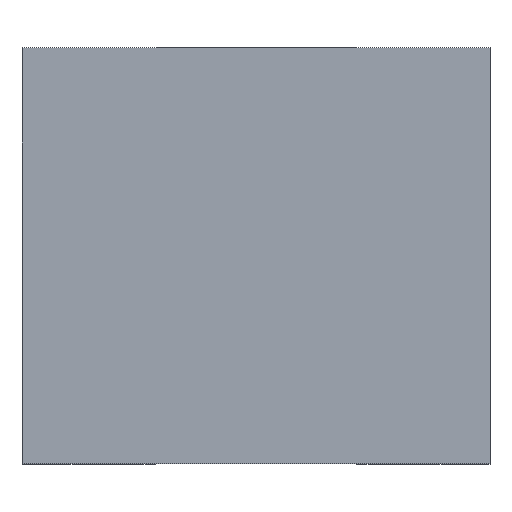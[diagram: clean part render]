
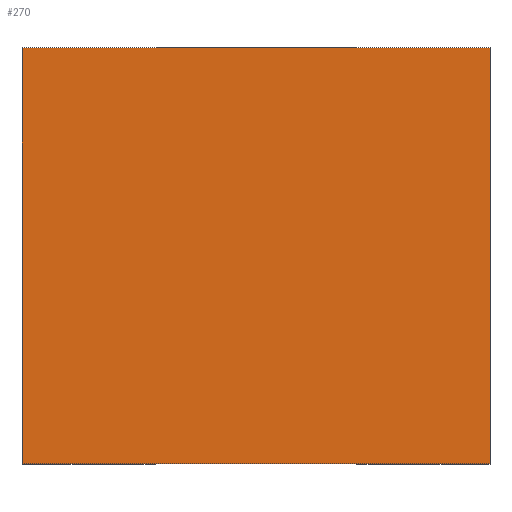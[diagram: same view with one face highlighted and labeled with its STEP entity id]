
A CAD part, top view. The second image highlights one B-rep face of the part: STEP entity #270.
In plain terms, the highlighted planar face has unit normal (0, 0, 1).
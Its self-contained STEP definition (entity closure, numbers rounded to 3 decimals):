
#24 = VERTEX_POINT('',#25);
#25 = CARTESIAN_POINT('',(-4.5,-4.,5.));
#32 = PLANE('',#33);
#33 = AXIS2_PLACEMENT_3D('',#34,#35,#36);
#34 = CARTESIAN_POINT('',(-4.5,-4.,0.));
#35 = DIRECTION('',(1.,0.,0.));
#36 = DIRECTION('',(0.,0.,1.));
#44 = PLANE('',#45);
#45 = AXIS2_PLACEMENT_3D('',#46,#47,#48);
#46 = CARTESIAN_POINT('',(-4.5,-4.,0.));
#47 = DIRECTION('',(0.,1.,0.));
#48 = DIRECTION('',(0.,0.,1.));
#85 = VERTEX_POINT('',#86);
#86 = CARTESIAN_POINT('',(-4.5,4.,5.));
#100 = PLANE('',#101);
#101 = AXIS2_PLACEMENT_3D('',#102,#103,#104);
#102 = CARTESIAN_POINT('',(-4.5,4.,0.));
#103 = DIRECTION('',(0.,1.,0.));
#104 = DIRECTION('',(0.,0.,1.));
#112 = EDGE_CURVE('',#24,#85,#113,.T.);
#113 = SURFACE_CURVE('',#114,(#118,#125),.PCURVE_S1.);
#114 = LINE('',#115,#116);
#115 = CARTESIAN_POINT('',(-4.5,-4.,5.));
#116 = VECTOR('',#117,1.);
#117 = DIRECTION('',(0.,1.,0.));
#118 = PCURVE('',#32,#119);
#119 = DEFINITIONAL_REPRESENTATION('',(#120),#124);
#120 = LINE('',#121,#122);
#121 = CARTESIAN_POINT('',(5.,0.));
#122 = VECTOR('',#123,1.);
#123 = DIRECTION('',(0.,-1.));
#124 = ( GEOMETRIC_REPRESENTATION_CONTEXT(2) 
PARAMETRIC_REPRESENTATION_CONTEXT() REPRESENTATION_CONTEXT('2D SPACE',''
  ) );
#125 = PCURVE('',#126,#131);
#126 = PLANE('',#127);
#127 = AXIS2_PLACEMENT_3D('',#128,#129,#130);
#128 = CARTESIAN_POINT('',(-4.5,-4.,5.));
#129 = DIRECTION('',(0.,0.,1.));
#130 = DIRECTION('',(1.,0.,0.));
#131 = DEFINITIONAL_REPRESENTATION('',(#132),#136);
#132 = LINE('',#133,#134);
#133 = CARTESIAN_POINT('',(0.,0.));
#134 = VECTOR('',#135,1.);
#135 = DIRECTION('',(0.,1.));
#136 = ( GEOMETRIC_REPRESENTATION_CONTEXT(2) 
PARAMETRIC_REPRESENTATION_CONTEXT() REPRESENTATION_CONTEXT('2D SPACE',''
  ) );
#165 = EDGE_CURVE('',#24,#166,#168,.T.);
#166 = VERTEX_POINT('',#167);
#167 = CARTESIAN_POINT('',(4.5,-4.,5.));
#168 = SURFACE_CURVE('',#169,(#173,#180),.PCURVE_S1.);
#169 = LINE('',#170,#171);
#170 = CARTESIAN_POINT('',(-4.5,-4.,5.));
#171 = VECTOR('',#172,1.);
#172 = DIRECTION('',(1.,0.,0.));
#173 = PCURVE('',#44,#174);
#174 = DEFINITIONAL_REPRESENTATION('',(#175),#179);
#175 = LINE('',#176,#177);
#176 = CARTESIAN_POINT('',(5.,0.));
#177 = VECTOR('',#178,1.);
#178 = DIRECTION('',(0.,1.));
#179 = ( GEOMETRIC_REPRESENTATION_CONTEXT(2) 
PARAMETRIC_REPRESENTATION_CONTEXT() REPRESENTATION_CONTEXT('2D SPACE',''
  ) );
#180 = PCURVE('',#126,#181);
#181 = DEFINITIONAL_REPRESENTATION('',(#182),#186);
#182 = LINE('',#183,#184);
#183 = CARTESIAN_POINT('',(0.,0.));
#184 = VECTOR('',#185,1.);
#185 = DIRECTION('',(1.,0.));
#186 = ( GEOMETRIC_REPRESENTATION_CONTEXT(2) 
PARAMETRIC_REPRESENTATION_CONTEXT() REPRESENTATION_CONTEXT('2D SPACE',''
  ) );
#204 = PLANE('',#205);
#205 = AXIS2_PLACEMENT_3D('',#206,#207,#208);
#206 = CARTESIAN_POINT('',(4.5,-4.,0.));
#207 = DIRECTION('',(1.,0.,0.));
#208 = DIRECTION('',(0.,0.,1.));
#270 = ADVANCED_FACE('',(#271),#126,.T.);
#271 = FACE_BOUND('',#272,.T.);
#272 = EDGE_LOOP('',(#273,#274,#275,#298));
#273 = ORIENTED_EDGE('',*,*,#112,.F.);
#274 = ORIENTED_EDGE('',*,*,#165,.T.);
#275 = ORIENTED_EDGE('',*,*,#276,.T.);
#276 = EDGE_CURVE('',#166,#277,#279,.T.);
#277 = VERTEX_POINT('',#278);
#278 = CARTESIAN_POINT('',(4.5,4.,5.));
#279 = SURFACE_CURVE('',#280,(#284,#291),.PCURVE_S1.);
#280 = LINE('',#281,#282);
#281 = CARTESIAN_POINT('',(4.5,-4.,5.));
#282 = VECTOR('',#283,1.);
#283 = DIRECTION('',(0.,1.,0.));
#284 = PCURVE('',#126,#285);
#285 = DEFINITIONAL_REPRESENTATION('',(#286),#290);
#286 = LINE('',#287,#288);
#287 = CARTESIAN_POINT('',(9.,0.));
#288 = VECTOR('',#289,1.);
#289 = DIRECTION('',(0.,1.));
#290 = ( GEOMETRIC_REPRESENTATION_CONTEXT(2) 
PARAMETRIC_REPRESENTATION_CONTEXT() REPRESENTATION_CONTEXT('2D SPACE',''
  ) );
#291 = PCURVE('',#204,#292);
#292 = DEFINITIONAL_REPRESENTATION('',(#293),#297);
#293 = LINE('',#294,#295);
#294 = CARTESIAN_POINT('',(5.,0.));
#295 = VECTOR('',#296,1.);
#296 = DIRECTION('',(0.,-1.));
#297 = ( GEOMETRIC_REPRESENTATION_CONTEXT(2) 
PARAMETRIC_REPRESENTATION_CONTEXT() REPRESENTATION_CONTEXT('2D SPACE',''
  ) );
#298 = ORIENTED_EDGE('',*,*,#299,.F.);
#299 = EDGE_CURVE('',#85,#277,#300,.T.);
#300 = SURFACE_CURVE('',#301,(#305,#312),.PCURVE_S1.);
#301 = LINE('',#302,#303);
#302 = CARTESIAN_POINT('',(-4.5,4.,5.));
#303 = VECTOR('',#304,1.);
#304 = DIRECTION('',(1.,0.,0.));
#305 = PCURVE('',#126,#306);
#306 = DEFINITIONAL_REPRESENTATION('',(#307),#311);
#307 = LINE('',#308,#309);
#308 = CARTESIAN_POINT('',(0.,8.));
#309 = VECTOR('',#310,1.);
#310 = DIRECTION('',(1.,0.));
#311 = ( GEOMETRIC_REPRESENTATION_CONTEXT(2) 
PARAMETRIC_REPRESENTATION_CONTEXT() REPRESENTATION_CONTEXT('2D SPACE',''
  ) );
#312 = PCURVE('',#100,#313);
#313 = DEFINITIONAL_REPRESENTATION('',(#314),#318);
#314 = LINE('',#315,#316);
#315 = CARTESIAN_POINT('',(5.,0.));
#316 = VECTOR('',#317,1.);
#317 = DIRECTION('',(0.,1.));
#318 = ( GEOMETRIC_REPRESENTATION_CONTEXT(2) 
PARAMETRIC_REPRESENTATION_CONTEXT() REPRESENTATION_CONTEXT('2D SPACE',''
  ) );
